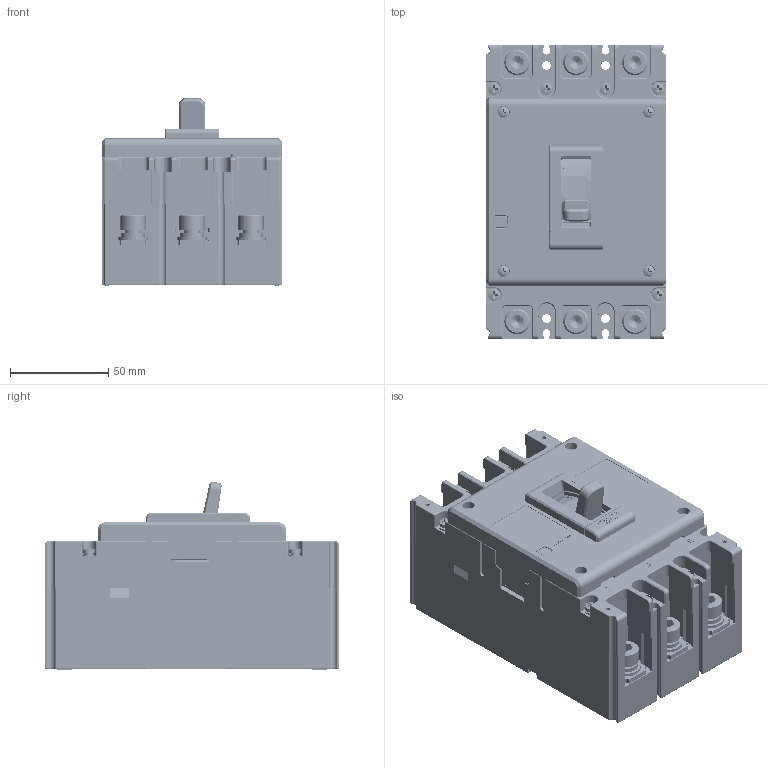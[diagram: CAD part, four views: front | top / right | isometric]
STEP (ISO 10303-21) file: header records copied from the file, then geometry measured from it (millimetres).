
FILE_DESCRIPTION((''),'2;1');
FILE_NAME('2253024600_ASM_ASM','2025-04-28T',('Administrator'),(''),'PRO/ENGINEER BY PARAMETRIC TECHNOLOGY CORPORATION, 2015440','PRO/ENGINEER BY PARAMETRIC TECHNOLOGY CORPORATION, 2015440','');
FILE_SCHEMA(('CONFIG_CONTROL_DESIGN'));
Products named in the file (52): JZ8024044700_1; GB_T809_M3_5X12_1; 5024044700_ASM_1_ASM; 70801007_GB_T6170_M8_1; 8551037900_1; 5551081000_ASM_1_ASM; GB_T823-M3_5X10_1; 7090300201_GB_T93_3_1; 8950019500_1; 5850004500_ASM_1_ASM; 8585071200_1; 5420213500_AF2_ASM_1_ASM; 5551103400_AF2_ASM_1_ASM; 5551103500_AF2_ASM_1_ASM; 5420213500_AF0_ASM_1_ASM; 5551103400_AF0_ASM_1_ASM; 5551103500_AF0_ASM_1_ASM; 5420213500_AF1_ASM_1_ASM; 5551103400_AF1_ASM_1_ASM; 5551103500_AF1_ASM_1_ASM; 5551105900_ASM_1_ASM; 5551108100_ASM_1_ASM; 5551108200_ASM_1_ASM; GB_T818-M3X8_1; 8950022000_1; 5850005300_ASM_1_ASM; GB_T823-M3_5X25_1; 5850007100_ASM_1_ASM; 8231017100_1; 5295008400_ASM_1_ASM; 8742111600_1; 8253076900_1; 5253029000_ASM_1_ASM; 8750034300_1; 8315096100_1; 8282073000_AF0_1; 8253076800_1; 5315051000_ASM_1_ASM; 8332001200_1; 8332001300_1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
Assembly tree (97 placements, depth 10):
  2253024600_ASM_ASM
    2253024600_ASM_1_ASM
      5295008400_ASM_1_ASM
        5024044700_ASM_1_ASM
          JZ8024044700_1
          GB_T809_M3_5X12_1  x6
        70801007_GB_T6170_M8_1  x6
        5551081000_ASM_1_ASM  x3
          8551037900_1
        5850004500_ASM_1_ASM  x6
          GB_T823-M3_5X10_1
          7090300201_GB_T93_3_1
          8950019500_1
        5551108200_ASM_1_ASM
          5551108100_ASM_1_ASM
            5551105900_ASM_1_ASM
              5551103500_AF2_ASM_1_ASM
                5551103400_AF2_ASM_1_ASM
                  5420213500_AF2_ASM_1_ASM
              5551103500_AF0_ASM_1_ASM
                5551103400_AF0_ASM_1_ASM
                  5420213500_AF0_ASM_1_ASM
              5551103500_AF1_ASM_1_ASM
                5551103400_AF1_ASM_1_ASM
                  5420213500_AF1_ASM_1_ASM
        5850005300_ASM_1_ASM  x3
          GB_T818-M3X8_1
          7090300201_GB_T93_3_1
          8950022000_1
        5850007100_ASM_1_ASM  x4
          GB_T823-M3_5X25_1
          7090300201_GB_T93_3_1
          8950019500_1
        8231017100_1
      8742111600_1  x3
      5253029000_ASM_1_ASM
        8253076900_1
      8750034300_1  x3
      5315052100_ASM_1_ASM
        5315051000_ASM_1_ASM
          8315096100_1
          8282073000_AF0_1
          8253076800_1
        8332001200_1
        8332001300_1
        8315096300_1
        7020100411_GB13806_2_ST2_9X8_A_  x4
      5850007200_ASM_1_ASM  x6
        GB_T823-M3_5X30_1
        7090300201_GB_T93_3_1
        8950019500_1
      8750038400_1
      5850008100_ASM_1_ASM  x6
        7010600401L_GB_T70_1_M8X16_1
        7090370701K_GB_T93_8_1
        GB_T97_4_8_1
Bounding box: 92 x 150 x 95.97 mm (x, y, z)
Volume: 379207.2 mm3; surface area: 319868.7 mm2
Topology: 113 solids, 160 shells, 8233 faces, 21720 edges, 13729 vertices
Faces by surface type: plane 4555, cylinder 2419, cone 296, torus 281, extrusion 264, sphere 249, bspline 169
Entity records: 223492 total; most frequent: CARTESIAN_POINT 54339, ORIENTED_EDGE 35688, DIRECTION 34367, EDGE_CURVE 17864, VECTOR 12323, LINE 12059, VERTEX_POINT 11450, AXIS2_PLACEMENT_3D 11022
